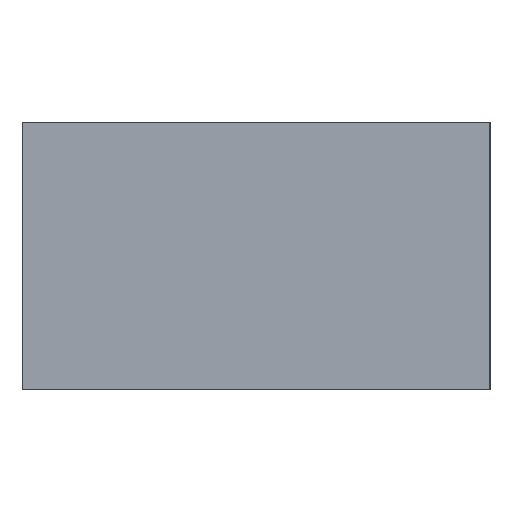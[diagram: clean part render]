
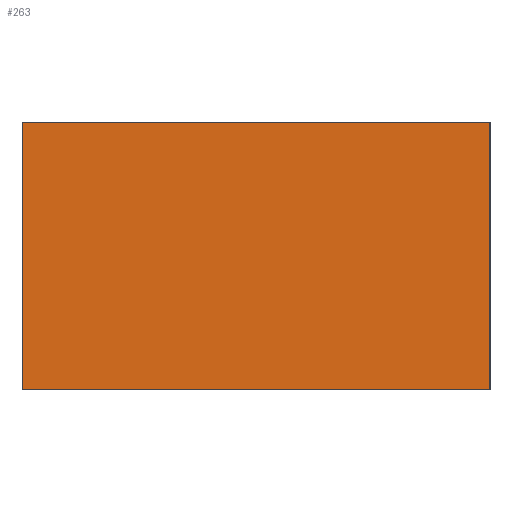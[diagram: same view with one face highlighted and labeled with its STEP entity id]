
A CAD part, left-side view. The second image highlights one B-rep face of the part: STEP entity #263.
In plain terms, the highlighted planar face has unit normal (-1, 0, 0).
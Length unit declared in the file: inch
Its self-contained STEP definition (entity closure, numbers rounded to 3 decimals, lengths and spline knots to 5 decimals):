
#69 = CARTESIAN_POINT ( 'NONE',  ( -2., 0., 0. ) ) ;
#72 = CARTESIAN_POINT ( 'NONE',  ( -2., 0., 1. ) ) ;
#77 = CARTESIAN_POINT ( 'NONE',  ( -2., 1.75, 1. ) ) ;
#84 = VERTEX_POINT ( 'NONE', #115 ) ;
#90 = CARTESIAN_POINT ( 'NONE',  ( -2., 1.75, 1. ) ) ;
#95 = LINE ( 'NONE', #681, #498 ) ;
#105 = AXIS2_PLACEMENT_3D ( 'NONE', #90, #304, #153 ) ;
#114 = CARTESIAN_POINT ( 'NONE',  ( -2., 1.75, 0. ) ) ;
#115 = CARTESIAN_POINT ( 'NONE',  ( -2., 0., 1. ) ) ;
#148 = ORIENTED_EDGE ( 'NONE', *, *, #299, .F. ) ;
#151 = EDGE_CURVE ( 'NONE', #84, #577, #335, .T. ) ;
#153 = DIRECTION ( 'NONE',  ( 0., 1., 0. ) ) ;
#168 = EDGE_CURVE ( 'NONE', #431, #424, #400, .T. ) ;
#210 = CARTESIAN_POINT ( 'NONE',  ( -2., 1.75, 1. ) ) ;
#233 = DIRECTION ( 'NONE',  ( 0., 0., -1. ) ) ;
#261 = VECTOR ( 'NONE', #233, 39.37008 ) ;
#263 = ADVANCED_FACE ( 'NONE', ( #365 ), #361, .F. ) ;
#299 = EDGE_CURVE ( 'NONE', #431, #84, #95, .T. ) ;
#304 = DIRECTION ( 'NONE',  ( 1., 0., 0. ) ) ;
#325 = DIRECTION ( 'NONE',  ( 0., -1., 0. ) ) ;
#335 = LINE ( 'NONE', #72, #476 ) ;
#355 = EDGE_LOOP ( 'NONE', ( #682, #531, #148, #457 ) ) ;
#361 = PLANE ( 'NONE',  #105 ) ;
#365 = FACE_OUTER_BOUND ( 'NONE', #355, .T. ) ;
#394 = EDGE_CURVE ( 'NONE', #424, #577, #491, .T. ) ;
#400 = LINE ( 'NONE', #77, #261 ) ;
#424 = VERTEX_POINT ( 'NONE', #114 ) ;
#431 = VERTEX_POINT ( 'NONE', #210 ) ;
#445 = DIRECTION ( 'NONE',  ( 0., 0., -1. ) ) ;
#457 = ORIENTED_EDGE ( 'NONE', *, *, #168, .T. ) ;
#476 = VECTOR ( 'NONE', #445, 39.37008 ) ;
#491 = LINE ( 'NONE', #599, #526 ) ;
#498 = VECTOR ( 'NONE', #693, 39.37008 ) ;
#526 = VECTOR ( 'NONE', #325, 39.37008 ) ;
#531 = ORIENTED_EDGE ( 'NONE', *, *, #151, .F. ) ;
#577 = VERTEX_POINT ( 'NONE', #69 ) ;
#599 = CARTESIAN_POINT ( 'NONE',  ( -2., 1.75, 0. ) ) ;
#681 = CARTESIAN_POINT ( 'NONE',  ( -2., 1.75, 1. ) ) ;
#682 = ORIENTED_EDGE ( 'NONE', *, *, #394, .T. ) ;
#693 = DIRECTION ( 'NONE',  ( 0., -1., 0. ) ) ;
